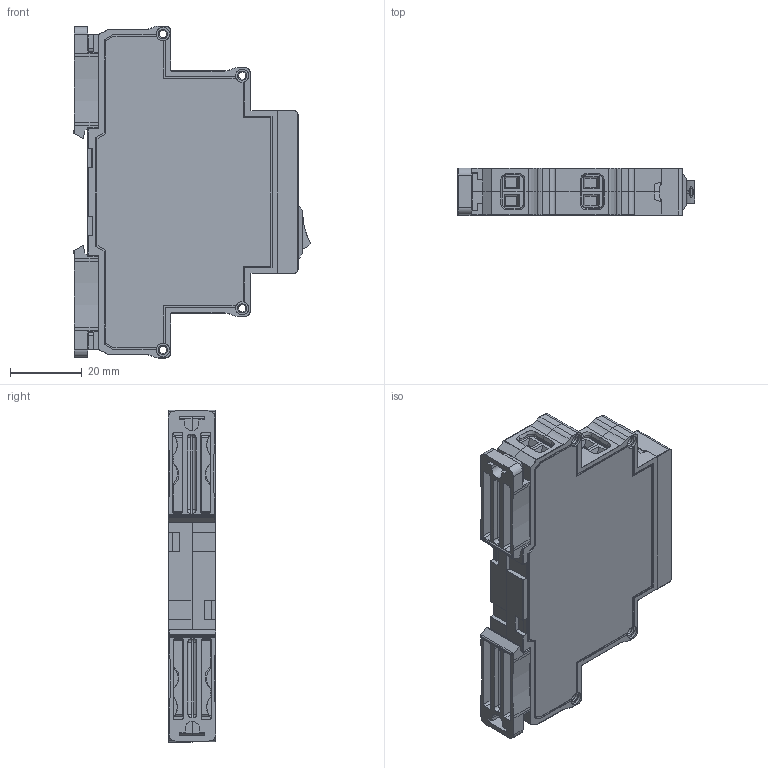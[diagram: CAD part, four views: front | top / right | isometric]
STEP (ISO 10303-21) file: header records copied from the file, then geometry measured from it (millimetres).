
FILE_DESCRIPTION(('STEP AP242'), '1');
FILE_NAME('ﾑ碚濱ﾏﾊﾌ-1', '', ('UNSPECIFIED'), ('UNSPECIFIED'), 'C3D Converter', 'C3D Toolkit', '');
FILE_SCHEMA(('AP242_MANAGED_MODEL_BASED_3D_ENGINEERING_MIM_LF { 1 0 10303 442 1 1 4 }'));
Length unit declared in the file: millimetre
Products named in the file (12): Case_UC1-2sR-2024_SimpleModel_6mm; Case13-18-23mm_2step_Lock_v01a_Build20140909_1552; Case_UC1-2sR-2025_Face_13mm; FDB4302D-95A0-4C39-9449-F4B4CCE469AD
Assembly tree (17 placements, depth 3):
  (unnamed)
    Case_UC1-2sR-2024_SimpleModel_6mm  x2
    Case13-18-23mm_2step_Lock_v01a_Build20140909_1552  x2
    Case_UC1-2sR-2025_Face_13mm
    (unnamed)  x4
      (unnamed)
    FDB4302D-95A0-4C39-9449-F4B4CCE469AD
    (unnamed)
    (unnamed)
    (unnamed)
    (unnamed)
    (unnamed)
Bounding box: 66.03 x 13.2 x 92.4 mm (x, y, z)
Volume: 23270.4 mm3; surface area: 35925.9 mm2
Topology: 45 solids, 45 shells, 4089 faces, 11447 edges, 7458 vertices
Faces by surface type: plane 3140, cylinder 383, extrusion 374, torus 96, cone 40, sphere 32, bspline 24
Full cylindrical faces by diameter (mm): 1.238 x8, 1.8 x2, 2 x2, 2.1 x8, 3.7 x8, 3.9 x8
Entity records: 127529 total; most frequent: CARTESIAN_POINT 22693, ORIENTED_EDGE 17584, DIRECTION 14172, EDGE_CURVE 8792, VECTOR 7842, LINE 7468, VERTEX_POINT 5808, EDGE_LOOP 3184
